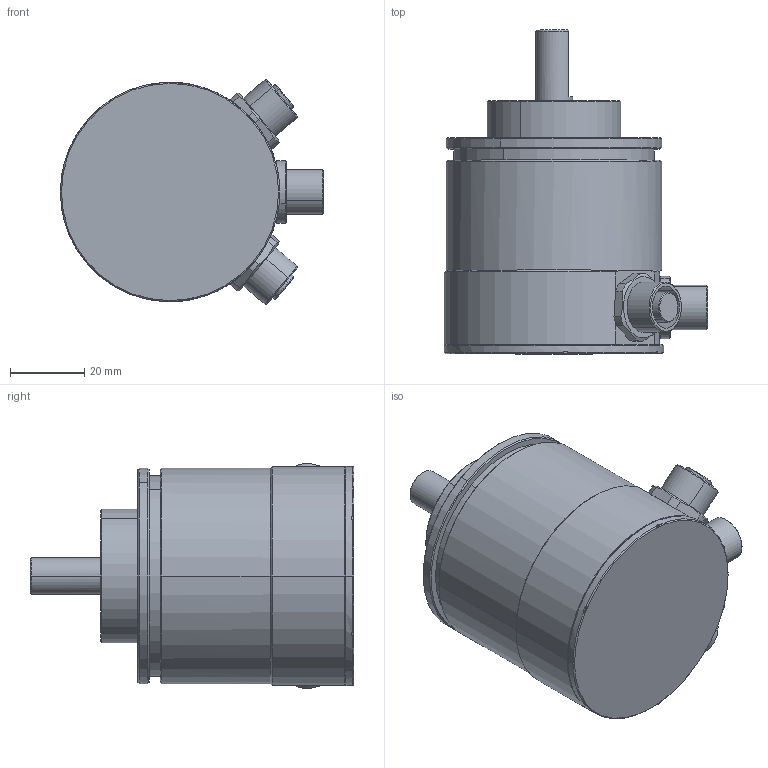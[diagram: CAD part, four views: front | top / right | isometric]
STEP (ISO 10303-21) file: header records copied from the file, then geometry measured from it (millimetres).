
FILE_DESCRIPTION (( 'STEP AP214' ), '1' );
FILE_NAME ('LMASD-38-7（V2.01）8轴齿轮多圈编码器（铝壳-IP65-profinet）.STEP', '2021-10-10T07:08:26', ( 'China' ), ( 'Home' ), 'SwSTEP 2.0', 'SolidWorks 2016', '' );
FILE_SCHEMA (( 'AUTOMOTIVE_DESIGN' ));
Length unit declared in the file: millimetre
Products named in the file (1): LMASD-38-7（V2.01）8轴齿轮多圈编码器（铝壳-IP65-profinet）
Bounding box: 70.8 x 87.1 x 60.45 mm (x, y, z)
Volume: 170019.6 mm3; surface area: 21020.9 mm2
Topology: 1 solids, 1 shells, 167 faces, 393 edges, 243 vertices
Faces by surface type: plane 61, cylinder 57, cone 49
Entity records: 5935 total; most frequent: CARTESIAN_POINT 997, DIRECTION 879, ORIENTED_EDGE 786, EDGE_CURVE 393, AXIS2_PLACEMENT_3D 361, VERTEX_POINT 243, CIRCLE 193, EDGE_LOOP 182
